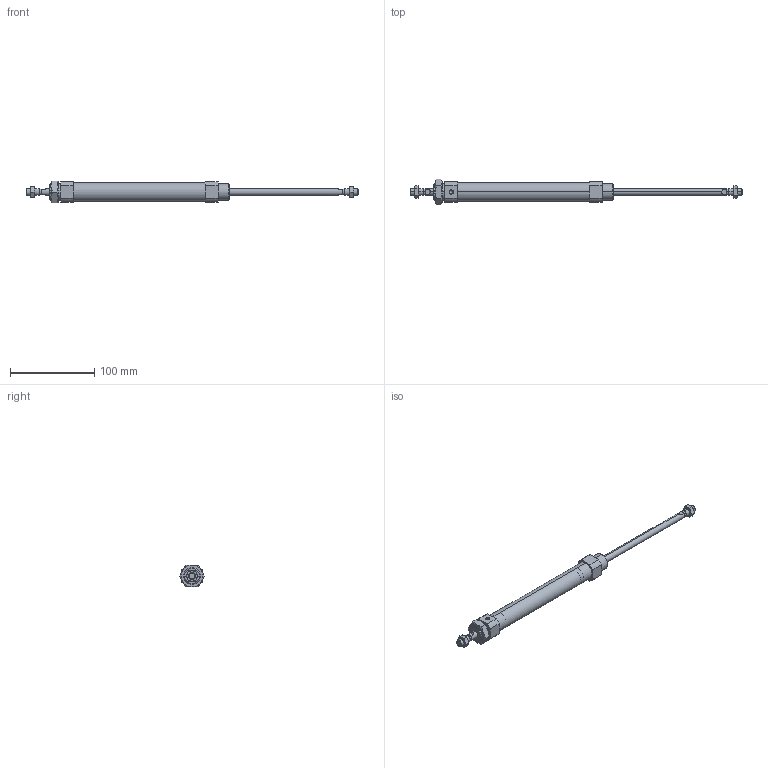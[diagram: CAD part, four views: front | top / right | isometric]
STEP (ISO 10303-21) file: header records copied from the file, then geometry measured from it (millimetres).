
FILE_DESCRIPTION (( 'STEP AP203' ), '1' );
FILE_NAME ('CSM2B20-125-P.STEP', '2020-07-20T15:29:34', ( '' ), ( '' ), 'SwSTEP 2.0', 'SolidWorks 2019', '' );
FILE_SCHEMA (( 'CONFIG_CONTROL_DESIGN' ));
Length unit declared in the file: millimetre
Products named in the file (1): CSM2B20-125-P
Bounding box: 394 x 30.02 x 26 mm (x, y, z)
Volume: 60240.1 mm3; surface area: 40640.4 mm2
Topology: 5 solids, 5 shells, 153 faces, 362 edges, 228 vertices
Faces by surface type: plane 62, cylinder 46, cone 45
Entity records: 5450 total; most frequent: CARTESIAN_POINT 1855, DIRECTION 741, ORIENTED_EDGE 720, EDGE_CURVE 360, AXIS2_PLACEMENT_3D 294, VERTEX_POINT 228, EDGE_LOOP 176, VECTOR 153
